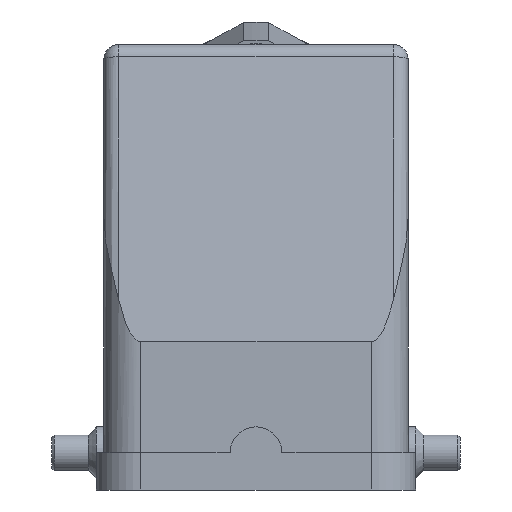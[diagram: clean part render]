
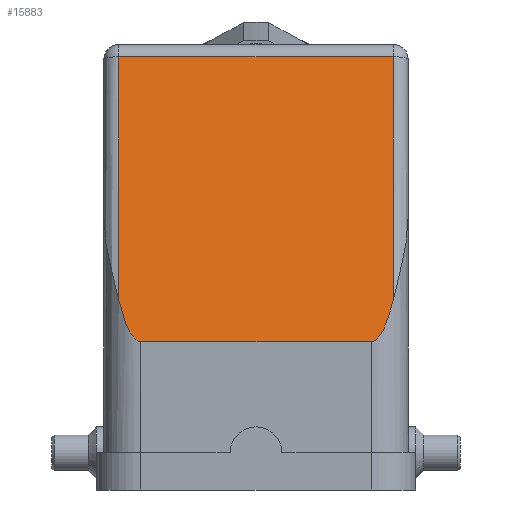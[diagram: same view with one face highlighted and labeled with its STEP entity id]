
A CAD part, front view. The second image highlights one B-rep face of the part: STEP entity #15883.
In plain terms, the highlighted planar face has unit normal (0, -0.985, 0.174).
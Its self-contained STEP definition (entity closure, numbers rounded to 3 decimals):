
#10133=CARTESIAN_POINT('',(-18.5,-38.738,58.347));
#10134=VERTEX_POINT('',#10133);
#10142=CARTESIAN_POINT('',(18.5,-38.738,58.347));
#10143=VERTEX_POINT('',#10142);
#10144=CARTESIAN_POINT('',(-18.5,-38.738,58.347));
#10145=DIRECTION('',(1.0,0.0,0.0));
#10146=VECTOR('',#10145,37.0);
#10147=LINE('',#10144,#10146);
#10148=EDGE_CURVE('',#10134,#10143,#10147,.T.);
#15492=CARTESIAN_POINT('',(18.5,-44.5,25.671));
#15493=VERTEX_POINT('',#15492);
#15510=CARTESIAN_POINT('',(15.5,-45.5,20.0));
#15511=VERTEX_POINT('',#15510);
#15512=CARTESIAN_POINT('',(15.5,-40.5,48.356));
#15513=DIRECTION('',(0.0,-0.985,0.174));
#15514=DIRECTION('',(0.0,-0.174,-0.985));
#15515=AXIS2_PLACEMENT_3D('',#15512,#15513,#15514);
#15516=ELLIPSE('',#15515,28.794,5.);
#15517=EDGE_CURVE('',#15511,#15493,#15516,.T.);
#15579=CARTESIAN_POINT('',(-18.5,-44.5,25.671));
#15580=VERTEX_POINT('',#15579);
#15607=CARTESIAN_POINT('',(-15.5,-45.5,20.0));
#15608=VERTEX_POINT('',#15607);
#15615=CARTESIAN_POINT('',(-15.5,-40.5,48.356));
#15616=DIRECTION('',(0.0,-0.985,0.174));
#15617=DIRECTION('',(0.0,-0.174,-0.985));
#15618=AXIS2_PLACEMENT_3D('',#15615,#15616,#15617);
#15619=ELLIPSE('',#15618,28.794,5.);
#15620=EDGE_CURVE('',#15580,#15608,#15619,.T.);
#15645=CARTESIAN_POINT('',(-18.5,-44.5,25.671));
#15646=DIRECTION('',(0.0,0.174,0.985));
#15647=VECTOR('',#15646,33.18);
#15648=LINE('',#15645,#15647);
#15649=EDGE_CURVE('',#15580,#10134,#15648,.T.);
#15670=CARTESIAN_POINT('',(15.5,-45.5,20.0));
#15671=DIRECTION('',(-1.0,0.0,0.0));
#15672=VECTOR('',#15671,31.);
#15673=LINE('',#15670,#15672);
#15674=EDGE_CURVE('',#15511,#15608,#15673,.T.);
#15799=CARTESIAN_POINT('',(18.5,-38.738,58.347));
#15800=DIRECTION('',(0.0,-0.174,-0.985));
#15801=VECTOR('',#15800,33.18);
#15802=LINE('',#15799,#15801);
#15803=EDGE_CURVE('',#10143,#15493,#15802,.T.);
#15870=CARTESIAN_POINT('',(0.0,-45.5,20.0));
#15871=DIRECTION('',(0.0,-0.985,0.174));
#15872=DIRECTION('',(0.0,-0.174,-0.985));
#15873=AXIS2_PLACEMENT_3D('',#15870,#15871,#15872);
#15874=PLANE('',#15873);
#15875=ORIENTED_EDGE('',*,*,#10148,.F.);
#15876=ORIENTED_EDGE('',*,*,#15649,.F.);
#15877=ORIENTED_EDGE('',*,*,#15620,.T.);
#15878=ORIENTED_EDGE('',*,*,#15674,.F.);
#15879=ORIENTED_EDGE('',*,*,#15517,.T.);
#15880=ORIENTED_EDGE('',*,*,#15803,.F.);
#15881=EDGE_LOOP('',(#15875,#15876,#15877,#15878,#15879,#15880));
#15882=FACE_OUTER_BOUND('',#15881,.T.);
#15883=ADVANCED_FACE('',(#15882),#15874,.T.);
